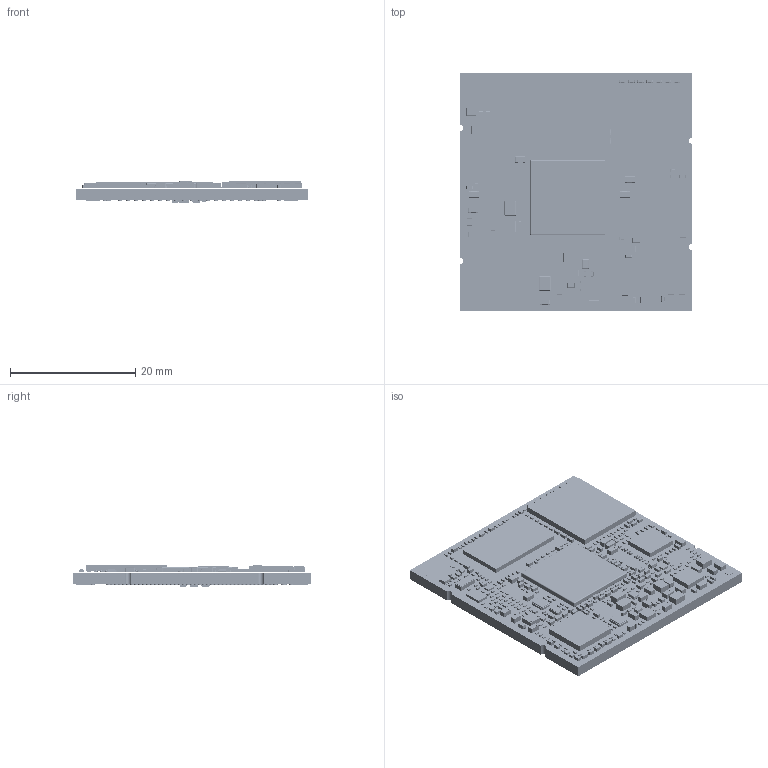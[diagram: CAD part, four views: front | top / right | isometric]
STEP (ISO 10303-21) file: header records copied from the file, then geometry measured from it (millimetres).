
FILE_DESCRIPTION(('STEP AP214'),'1');
FILE_NAME('1627.0_BoardAndModels.step','2025-03-05T02:28:51',(' '),(' '),'Spatial InterOp 3D','XD3DPlugin XRACreate',' ');
FILE_SCHEMA(('automotive_design'));
Length unit declared in the file: millimetre
Products named in the file (170): Submodel-C:\Users\wilhelmy\Desktop\Layout\pcl-082 weg\005\Board1_PCB\Layout\3D\Input_S\CRCW020110R7JNEF.xtd; CRCW020110R7JNEF; Submodel-RES5653_part_simplified_0201; DesignRootModel; Submodel-C:\Users\wilhelmy\Desktop\Layout\pcl-082 weg\005\Board1_PCB\Layout\3D\Input_S\TRANSISTOR932.xtd; TRANSISTOR932; Submodel-TRANSISTOR932_part_simplified_DFN-0806-3; Submodel-C:\Users\wilhelmy\Desktop\Layout\pcl-082 weg\005\Board1_PCB\Layout\3D\Input_S\0201YC101KAZ2A.xtd; 0201YC101KAZ2A; Submodel-CAP3713_part_simplified_0201; Submodel-C:\Users\wilhelmy\Desktop\Layout\pcl-082 weg\005\Board1_PCB\Layout\3D\Input_S\xd_qfn_47.xtd; xd_qfn_47; Submodel-XCVR1233_part_simplified_QFNQ49-50-EP4_comma_2x4_comma_2-C3; Submodel-C:\Users\wilhelmy\Desktop\Layout\pcl-082 weg\005\Board1_PCB\Layout\3D\Input_S\C0402C270F5GAC_0.xtd; C0402C270F5GAC_0; Submodel-CAP1703_part_simplified_0402-C3; Submodel-C:\Users\wilhelmy\Desktop\Layout\pcl-082 weg\005\Board1_PCB\Layout\3D\Input_S\RC0603F1005CS.xtd; RC0603F1005CS; Submodel-RES5673_part_simplified_0201; Submodel-C:\Users\wilhelmy\Desktop\Layout\pcl-082 weg\005\Board1_PCB\Layout\3D\Input_S\GRM188Z71A106KA73D.xtd; GRM188Z71A106KA73D; Submodel-CAP3343_part_simplified_0603-C3; Submodel-C:\Users\wilhelmy\Desktop\Layout\pcl-082 weg\005\Board1_PCB\Layout\3D\Input_S\GRM188C71C475KE21D.xtd; GRM188C71C475KE21D; Submodel-CAP3783_part_simplified_0603-C3; Submodel-RES5743_part_simplified_0201; Submodel-C:\Users\wilhelmy\Desktop\Layout\pcl-082 weg\005\Board1_PCB\Layout\3D\Input_S\GRM0335C1E120GA01D.xtd; GRM0335C1E120GA01D; Submodel-CAP3673_part_simplified_0201; Submodel-C:\Users\wilhelmy\Desktop\Layout\pcl-082 weg\005\Board1_PCB\Layout\3D\Input_S\JUMP343.xtd; JUMP343; Submodel-JUMP343_part_simplified_J1X3-0201; Submodel-RES5693_part_simplified_0201; Submodel-C:\Users\wilhelmy\Desktop\Layout\pcl-082 weg\005\Board1_PCB\Layout\3D\Input_S\REMOVE_CONN13663.xtd; REMOVE_CONN13663; Submodel-CONN13663_part_simplified_Testpunkt-0.5mm; Submodel-RES7213_part_simplified_0201; Submodel-RES5803_part_simplified_0201; Submodel-RES6123_part_simplified_0201; Submodel-CAP3883_part_simplified_0201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
Assembly tree (540 placements, depth 6):
  1627.0_BoardAndModels
    DesignRootModel
      Submodel-RES5653_part_simplified_0201  x3
        Submodel-C:\Users\wilhelmy\Desktop\Layout\pcl-082 weg\005\Board1_PCB\Layout\3D\Input_S\CRCW020110R7JNEF.xtd
          CRCW020110R7JNEF
      Submodel-TRANSISTOR932_part_simplified_DFN-0806-3  x10
        Submodel-C:\Users\wilhelmy\Desktop\Layout\pcl-082 weg\005\Board1_PCB\Layout\3D\Input_S\TRANSISTOR932.xtd
          TRANSISTOR932
      Submodel-CAP3713_part_simplified_0201  x90
        Submodel-C:\Users\wilhelmy\Desktop\Layout\pcl-082 weg\005\Board1_PCB\Layout\3D\Input_S\0201YC101KAZ2A.xtd
          0201YC101KAZ2A
      Submodel-XCVR1233_part_simplified_QFNQ49-50-EP4_comma_2x4_comma_2-C3
        Submodel-C:\Users\wilhelmy\Desktop\Layout\pcl-082 weg\005\Board1_PCB\Layout\3D\Input_S\xd_qfn_47.xtd
          xd_qfn_47
      Submodel-CAP1703_part_simplified_0402-C3  x55
        Submodel-C:\Users\wilhelmy\Desktop\Layout\pcl-082 weg\005\Board1_PCB\Layout\3D\Input_S\C0402C270F5GAC_0.xtd
          C0402C270F5GAC_0
      Submodel-RES5673_part_simplified_0201  x36
        Submodel-C:\Users\wilhelmy\Desktop\Layout\pcl-082 weg\005\Board1_PCB\Layout\3D\Input_S\RC0603F1005CS.xtd
          RC0603F1005CS
      Submodel-CAP3343_part_simplified_0603-C3  x7
        Submodel-C:\Users\wilhelmy\Desktop\Layout\pcl-082 weg\005\Board1_PCB\Layout\3D\Input_S\GRM188Z71A106KA73D.xtd
          GRM188Z71A106KA73D
      Submodel-CAP3783_part_simplified_0603-C3  x10
        Submodel-C:\Users\wilhelmy\Desktop\Layout\pcl-082 weg\005\Board1_PCB\Layout\3D\Input_S\GRM188C71C475KE21D.xtd
          GRM188C71C475KE21D
      Submodel-RES5743_part_simplified_0201  x3
        Submodel-C:\Users\wilhelmy\Desktop\Layout\pcl-082 weg\005\Board1_PCB\Layout\3D\Input_S\RC0603F1005CS.xtd
          RC0603F1005CS
      Submodel-CAP3673_part_simplified_0201  x6
        Submodel-C:\Users\wilhelmy\Desktop\Layout\pcl-082 weg\005\Board1_PCB\Layout\3D\Input_S\GRM0335C1E120GA01D.xtd
          GRM0335C1E120GA01D
      Submodel-JUMP343_part_simplified_J1X3-0201  x11
        Submodel-C:\Users\wilhelmy\Desktop\Layout\pcl-082 weg\005\Board1_PCB\Layout\3D\Input_S\JUMP343.xtd
          JUMP343
      Submodel-RES5693_part_simplified_0201  x9
        Submodel-C:\Users\wilhelmy\Desktop\Layout\pcl-082 weg\005\Board1_PCB\Layout\3D\Input_S\RC0603F1005CS.xtd
          RC0603F1005CS
      Submodel-CONN13663_part_simplified_Testpunkt-0.5mm  x8
        Submodel-C:\Users\wilhelmy\Desktop\Layout\pcl-082 weg\005\Board1_PCB\Layout\3D\Input_S\REMOVE_CONN13663.xtd
          REMOVE_CONN13663
      Submodel-RES7213_part_simplified_0201  x3
        Submodel-C:\Users\wilhelmy\Desktop\Layout\pcl-082 weg\005\Board1_PCB\Layout\3D\Input_S\RC0603F1005CS.xtd
          RC0603F1005CS
      Submodel-RES5803_part_simplified_0201  x20
        Submodel-C:\Users\wilhelmy\Desktop\Layout\pcl-082 weg\005\Board1_PCB\Layout\3D\Input_S\RC0603F1005CS.xtd
          RC0603F1005CS
      Submodel-RES6123_part_simplified_0201  x3
        Submodel-C:\Users\wilhelmy\Desktop\Layout\pcl-082 weg\005\Board1_PCB\Layout\3D\Input_S\CRCW020110R7JNEF.xtd
          CRCW020110R7JNEF
      Submodel-CAP3883_part_simplified_0201  x7
        Submodel-C:\Users\wilhelmy\Desktop\Layout\pcl-082 weg\005\Board1_PCB\Layout\3D\Input_S\0201YC101KAZ2A.xtd
          0201YC101KAZ2A
      Submodel-CAP3793_part_simplified_0402-1230x660um  x11
        Submodel-C:\Users\wilhelmy\Desktop\Layout\pcl-082 weg\005\Board1_PCB\Layout\3D\Input_S\GRM155C71A225KE11D.xtd
          GRM155C71A225KE11D
      Submodel-RES5753_part_simplified_0201  x2
        Submodel-C:\Users\wilhelmy\Desktop\Layout\pcl-082 weg\005\Board1_PCB\Layout\3D\Input_S\RC0603F1005CS.xtd
          RC0603F1005CS
      Submodel-FILTER163_part_simplified_0603-C3
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Bounding box: 37 x 38 x 3.62 mm (x, y, z)
Volume: 3004 mm3; surface area: 5873.1 mm2
Topology: 1404 solids, 1440 shells, 10529 faces, 23723 edges, 15086 vertices
Faces by surface type: plane 7447, cylinder 1920, sphere 1114, torus 40, bspline 8
Full cylindrical faces by diameter (mm): 0.25 x1, 0.65 x397
Entity records: 183070 total; most frequent: DIRECTION 22763, CARTESIAN_POINT 20830, ORIENTED_EDGE 17706, EDGE_CURVE 8889, AXIS2_PLACEMENT_3D 8365, PRESENTATION_STYLE_ASSIGNMENT 7861, COLOUR_RGB 7861, STYLED_ITEM 7402
